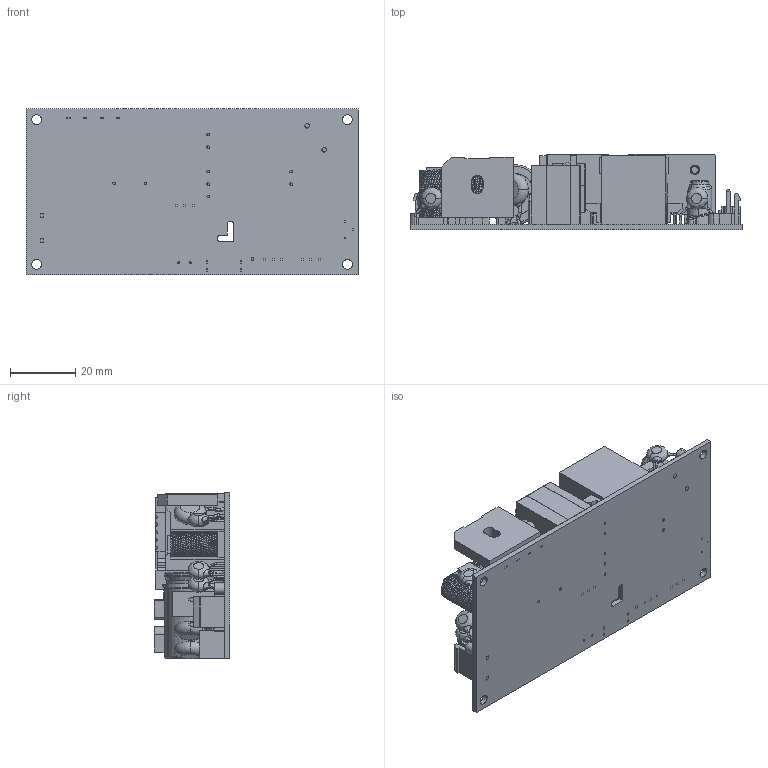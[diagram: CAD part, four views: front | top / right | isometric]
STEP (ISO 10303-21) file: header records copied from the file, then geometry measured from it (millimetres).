
FILE_DESCRIPTION (( 'STEP AP214' ), '1' );
FILE_NAME ('LCE80.STEP', '2021-07-07T13:27:18', ( '' ), ( '' ), 'SwSTEP 2.0', 'SolidWorks 2020', '' );
FILE_SCHEMA (( 'AUTOMOTIVE_DESIGN' ));
Length unit declared in the file: millimetre
Products named in the file (36): ､鎹IN-(ｩl)-1070104; Bill core; 電晶體 105,04,14; LCE80 變壓器A示意圖_4; 電晶體10mm; LCE80 變壓器A示意圖; LCE80 L4 100,01,24; TR70M 散熱片2 G6612470123 (M-B142-00-J)-1070126; LCE80 6PIN插座 106,03,08; 平頭十字螺絲 M3x6mm(M-B028-00-S)G75A1100712; LCE80 變壓器B示意圖; LCE80  CY6 示意圖; TH1(9.8X15.4); LCE80 2 PIN(3孔)插座示意圖; LCE80 VR 100,12,28; LCE80電感L2示意圖-1080507; LCE80 變壓器A示意圖_3; LCE80 100,12,28; LCE80  CY4 示意圖; LCE80 M3螺絲和華司; 電晶體10mm_2; LCE80 2 PIN(3孔)插座示意圖_2; LCE80 18.3mm電容; LCE80; 橋式整流器電晶體; LCE80散熱片21.5x19x6mm; LCE80 變壓器A示意圖_2; LCE80 2 PIN(3孔)插座示意圖_3; 電晶體10mm_3; LCE80 變壓器A示意圖_5; LCE80 100,12,28_2; Electrolitic Capacitor Radial (6.5X12); LCE80 散熱片2 (J); LCE80 PCB-1080502
Assembly tree (41 placements, depth 3):
  LCE80
    LCE80 PCB-1080502
    LCE80 2 PIN(3孔)插座示意圖
      LCE80 2 PIN(3孔)插座示意圖
      LCE80 2 PIN(3孔)插座示意圖_2
      LCE80 2 PIN(3孔)插座示意圖_3
    LCE80 6PIN插座 106,03,08
    LCE80 L4 100,01,24
    LCE80 VR 100,12,28
      LCE80 100,12,28
      LCE80 100,12,28_2
    橋式整流器電晶體
    LCE80 18.3mm電容
    Electrolitic Capacitor Radial (6.5X12)
    LCE80  CY6 示意圖  x2
    電晶體10mm_3
    LCE80 M3螺絲和華司  x2
    電晶體 105,04,14
    LCE80散熱片21.5x19x6mm
    TH1(9.8X15.4)  x3
    電晶體10mm_2
    電晶體10mm
    平頭十字螺絲 M3x6mm(M-B028-00-S)G75A1100712
    LCE80  CY4 示意圖  x2
    Bill core  x2
    LCE80 散熱片2 (J)
      TR70M 散熱片2 G6612470123 (M-B142-00-J)-1070126
      ､鎹IN-(ｩl)-1070104
    LCE80 變壓器A示意圖
      LCE80 變壓器A示意圖_2
      LCE80 變壓器A示意圖
      LCE80 變壓器A示意圖_3
      LCE80 變壓器A示意圖_4
      LCE80 變壓器A示意圖_5
    LCE80 變壓器B示意圖
    LCE80電感L2示意圖-1080507
Bounding box: 101.6 x 23.1 x 50.8 mm (x, y, z)
Volume: 46186.7 mm3; surface area: 39649.8 mm2
Topology: 37 solids, 37 shells, 1595 faces, 4190 edges, 2698 vertices
Faces by surface type: plane 981, cylinder 361, bspline 193, cone 30, torus 30
Entity records: 97630 total; most frequent: CARTESIAN_POINT 47836, ORIENTED_EDGE 7288, DIRECTION 6260, EDGE_CURVE 3644, LINE 2552, VECTOR 2552, VERTEX_POINT 2355, AXIS2_PLACEMENT_3D 1854
